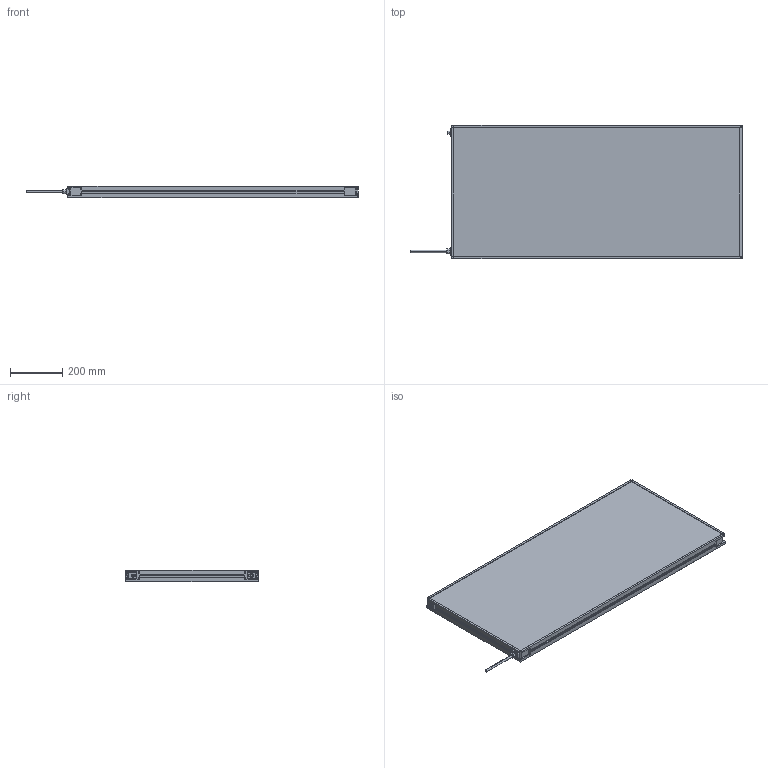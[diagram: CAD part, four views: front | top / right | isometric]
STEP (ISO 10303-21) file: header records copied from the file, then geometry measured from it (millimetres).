
FILE_DESCRIPTION (( 'STEP AP214' ), '1' );
FILE_NAME ('MBACK-xxxx-xxx-M1A2_CLIENT500x1100.STEP', '2022-04-01T11:40:16', ( '' ), ( '' ), 'SwSTEP 2.0', 'SolidWorks 2020', '' );
FILE_SCHEMA (( 'AUTOMOTIVE_DESIGN' ));
Length unit declared in the file: millimetre
Products named in the file (1): MBACK-xxxx-xxx-M1A2_CLIENT500x1100
Bounding box: 1267.4 x 508 x 45.5 mm (x, y, z)
Volume: 23436597.1 mm3; surface area: 1346321.2 mm2
Topology: 1 solids, 1 shells, 470 faces, 1210 edges, 804 vertices
Faces by surface type: plane 265, cylinder 117, bspline 80, cone 8
Entity records: 18046 total; most frequent: CARTESIAN_POINT 6837, ORIENTED_EDGE 2420, DIRECTION 2082, EDGE_CURVE 1210, VERTEX_POINT 804, VECTOR 800, LINE 800, AXIS2_PLACEMENT_3D 641
